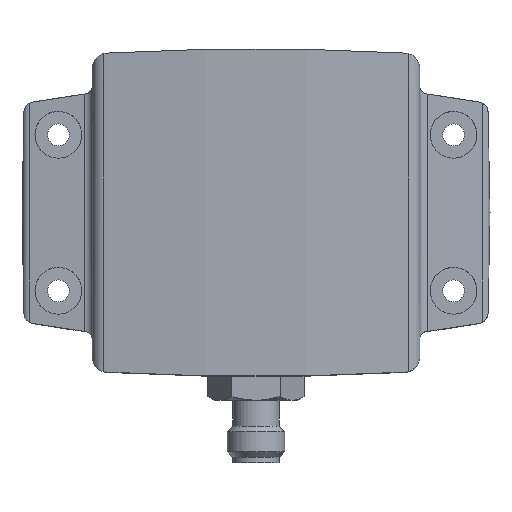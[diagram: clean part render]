
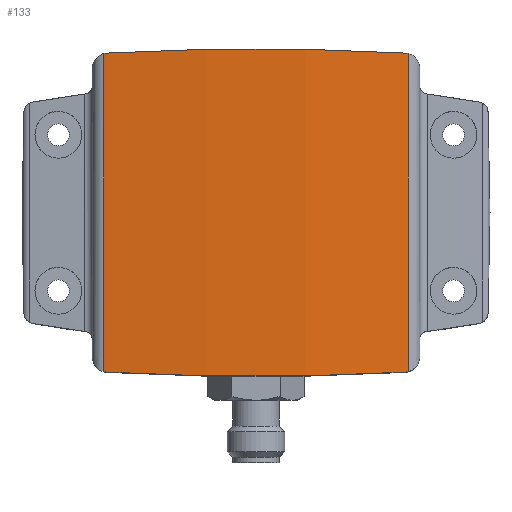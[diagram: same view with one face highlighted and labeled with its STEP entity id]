
A CAD part, top view. The second image highlights one B-rep face of the part: STEP entity #133.
In plain terms, the highlighted cylindrical face has radius 250.001 mm (diameter 500.002 mm), a partial arc.
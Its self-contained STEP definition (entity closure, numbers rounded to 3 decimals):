
#133 = ADVANCED_FACE( '', ( #289 ), #290, .T. );
#289 = FACE_OUTER_BOUND( '', #481, .T. );
#290 = CYLINDRICAL_SURFACE( '', #482, 250.001 );
#481 = EDGE_LOOP( '', ( #973, #974, #975, #976, #977, #978, #979, #980 ) );
#482 = AXIS2_PLACEMENT_3D( '', #981, #982, #983 );
#973 = ORIENTED_EDGE( '', *, *, #1404, .F. );
#974 = ORIENTED_EDGE( '', *, *, #1403, .F. );
#975 = ORIENTED_EDGE( '', *, *, #1405, .F. );
#976 = ORIENTED_EDGE( '', *, *, #1406, .F. );
#977 = ORIENTED_EDGE( '', *, *, #1407, .F. );
#978 = ORIENTED_EDGE( '', *, *, #1408, .T. );
#979 = ORIENTED_EDGE( '', *, *, #1409, .F. );
#980 = ORIENTED_EDGE( '', *, *, #1410, .F. );
#981 = CARTESIAN_POINT( '', ( 0., 35., -219.501 ) );
#982 = DIRECTION( '', ( 0., 1., 0. ) );
#983 = DIRECTION( '', ( -0.117, 0., 0.993 ) );
#1403 = EDGE_CURVE( '', #1722, #1718, #1724, .T. );
#1404 = EDGE_CURVE( '', #1718, #1725, #1726, .T. );
#1405 = EDGE_CURVE( '', #1727, #1722, #1728, .T. );
#1406 = EDGE_CURVE( '', #1729, #1727, #1730, .T. );
#1407 = EDGE_CURVE( '', #1731, #1729, #1732, .T. );
#1408 = EDGE_CURVE( '', #1731, #1733, #1734, .T. );
#1409 = EDGE_CURVE( '', #1735, #1733, #1736, .T. );
#1410 = EDGE_CURVE( '', #1725, #1735, #1737, .T. );
#1718 = VERTEX_POINT( '', #2642 );
#1722 = VERTEX_POINT( '', #2664 );
#1724 = LINE( '', #2683, #2684 );
#1725 = VERTEX_POINT( '', #2685 );
#1726 = B_SPLINE_CURVE_WITH_KNOTS( '', 3, ( #2686, #2687, #2688, #2689, #2690, #2691 ), .UNSPECIFIED., .F., .F., ( 4, 2, 4 ), ( 12.826, 13.038, 13.435 ), .UNSPECIFIED. );
#1727 = VERTEX_POINT( '', #2692 );
#1728 = B_SPLINE_CURVE_WITH_KNOTS( '', 3, ( #2693, #2694, #2695, #2696, #2697, #2698 ), .UNSPECIFIED., .F., .F., ( 4, 2, 4 ), ( 4.705, 5.103, 5.315 ), .UNSPECIFIED. );
#1729 = VERTEX_POINT( '', #2699 );
#1730 = B_SPLINE_CURVE_WITH_KNOTS( '', 3, ( #2700, #2701, #2702, #2703, #2704, #2705, #2706, #2707, #2708, #2709, #2710, #2711, #2712, #2713 ), .UNSPECIFIED., .F., .F., ( 4, 2, 2, 2, 2, 2, 4 ), ( 13.78, 20.224, 30.336, 40.448, 50.56, 60.672, 67.115 ), .UNSPECIFIED. );
#1731 = VERTEX_POINT( '', #2714 );
#1732 = B_SPLINE_CURVE_WITH_KNOTS( '', 3, ( #2715, #2716, #2717, #2718, #2719, #2720 ), .UNSPECIFIED., .F., .F., ( 4, 2, 4 ), ( 3.756, 3.967, 4.365 ), .UNSPECIFIED. );
#1733 = VERTEX_POINT( '', #2721 );
#1734 = LINE( '', #2722, #2723 );
#1735 = VERTEX_POINT( '', #2724 );
#1736 = B_SPLINE_CURVE_WITH_KNOTS( '', 3, ( #2725, #2726, #2727, #2728, #2729, #2730 ), .UNSPECIFIED., .F., .F., ( 4, 2, 4 ), ( 13.776, 14.173, 14.385 ), .UNSPECIFIED. );
#1737 = B_SPLINE_CURVE_WITH_KNOTS( '', 3, ( #2731, #2732, #2733, #2734, #2735, #2736, #2737, #2738, #2739, #2740, #2741, #2742, #2743, #2744 ), .UNSPECIFIED., .F., .F., ( 4, 2, 2, 2, 2, 2, 4 ), ( 13.78, 20.224, 30.336, 40.448, 50.56, 60.672, 67.115 ), .UNSPECIFIED. );
#2642 = CARTESIAN_POINT( '', ( 29.293, -30.575, 28.778 ) );
#2664 = CARTESIAN_POINT( '', ( 29.293, 30.575, 28.778 ) );
#2683 = CARTESIAN_POINT( '', ( 29.293, 35., 28.778 ) );
#2684 = VECTOR( '', #3281, 1. );
#2685 = CARTESIAN_POINT( '', ( 28.672, -30.677, 28.85 ) );
#2686 = CARTESIAN_POINT( '', ( 29.293, -30.575, 28.778 ) );
#2687 = CARTESIAN_POINT( '', ( 29.221, -30.595, 28.786 ) );
#2688 = CARTESIAN_POINT( '', ( 29.15, -30.612, 28.795 ) );
#2689 = CARTESIAN_POINT( '', ( 28.942, -30.653, 28.819 ) );
#2690 = CARTESIAN_POINT( '', ( 28.806, -30.67, 28.835 ) );
#2691 = CARTESIAN_POINT( '', ( 28.672, -30.677, 28.85 ) );
#2692 = CARTESIAN_POINT( '', ( 28.672, 30.677, 28.85 ) );
#2693 = CARTESIAN_POINT( '', ( 28.672, 30.677, 28.85 ) );
#2694 = CARTESIAN_POINT( '', ( 28.806, 30.67, 28.835 ) );
#2695 = CARTESIAN_POINT( '', ( 28.942, 30.653, 28.819 ) );
#2696 = CARTESIAN_POINT( '', ( 29.15, 30.612, 28.795 ) );
#2697 = CARTESIAN_POINT( '', ( 29.221, 30.595, 28.786 ) );
#2698 = CARTESIAN_POINT( '', ( 29.293, 30.575, 28.778 ) );
#2699 = CARTESIAN_POINT( '', ( -28.672, 30.677, 28.85 ) );
#2700 = CARTESIAN_POINT( '', ( -28.672, 30.677, 28.85 ) );
#2701 = CARTESIAN_POINT( '', ( -26.431, 30.806, 29.109 ) );
#2702 = CARTESIAN_POINT( '', ( -24.165, 30.921, 29.34 ) );
#2703 = CARTESIAN_POINT( '', ( -18.295, 31.178, 29.856 ) );
#2704 = CARTESIAN_POINT( '', ( -14.664, 31.298, 30.096 ) );
#2705 = CARTESIAN_POINT( '', ( -7.355, 31.459, 30.419 ) );
#2706 = CARTESIAN_POINT( '', ( -3.677, 31.5, 30.5 ) );
#2707 = CARTESIAN_POINT( '', ( 3.677, 31.5, 30.5 ) );
#2708 = CARTESIAN_POINT( '', ( 7.355, 31.459, 30.419 ) );
#2709 = CARTESIAN_POINT( '', ( 14.664, 31.298, 30.096 ) );
#2710 = CARTESIAN_POINT( '', ( 18.295, 31.178, 29.856 ) );
#2711 = CARTESIAN_POINT( '', ( 24.165, 30.921, 29.34 ) );
#2712 = CARTESIAN_POINT( '', ( 26.431, 30.806, 29.109 ) );
#2713 = CARTESIAN_POINT( '', ( 28.672, 30.677, 28.85 ) );
#2714 = CARTESIAN_POINT( '', ( -29.293, 30.575, 28.778 ) );
#2715 = CARTESIAN_POINT( '', ( -29.293, 30.575, 28.778 ) );
#2716 = CARTESIAN_POINT( '', ( -29.221, 30.595, 28.786 ) );
#2717 = CARTESIAN_POINT( '', ( -29.15, 30.612, 28.795 ) );
#2718 = CARTESIAN_POINT( '', ( -28.942, 30.653, 28.819 ) );
#2719 = CARTESIAN_POINT( '', ( -28.806, 30.67, 28.835 ) );
#2720 = CARTESIAN_POINT( '', ( -28.672, 30.677, 28.85 ) );
#2721 = CARTESIAN_POINT( '', ( -29.293, -30.575, 28.778 ) );
#2722 = CARTESIAN_POINT( '', ( -29.293, 35., 28.778 ) );
#2723 = VECTOR( '', #3282, 1. );
#2724 = CARTESIAN_POINT( '', ( -28.672, -30.677, 28.85 ) );
#2725 = CARTESIAN_POINT( '', ( -28.672, -30.677, 28.85 ) );
#2726 = CARTESIAN_POINT( '', ( -28.806, -30.67, 28.835 ) );
#2727 = CARTESIAN_POINT( '', ( -28.942, -30.653, 28.819 ) );
#2728 = CARTESIAN_POINT( '', ( -29.15, -30.612, 28.795 ) );
#2729 = CARTESIAN_POINT( '', ( -29.221, -30.595, 28.786 ) );
#2730 = CARTESIAN_POINT( '', ( -29.293, -30.575, 28.778 ) );
#2731 = CARTESIAN_POINT( '', ( 28.672, -30.677, 28.85 ) );
#2732 = CARTESIAN_POINT( '', ( 26.431, -30.806, 29.109 ) );
#2733 = CARTESIAN_POINT( '', ( 24.165, -30.921, 29.34 ) );
#2734 = CARTESIAN_POINT( '', ( 18.295, -31.178, 29.856 ) );
#2735 = CARTESIAN_POINT( '', ( 14.664, -31.298, 30.096 ) );
#2736 = CARTESIAN_POINT( '', ( 7.355, -31.459, 30.419 ) );
#2737 = CARTESIAN_POINT( '', ( 3.677, -31.5, 30.5 ) );
#2738 = CARTESIAN_POINT( '', ( -3.677, -31.5, 30.5 ) );
#2739 = CARTESIAN_POINT( '', ( -7.355, -31.459, 30.419 ) );
#2740 = CARTESIAN_POINT( '', ( -14.664, -31.298, 30.096 ) );
#2741 = CARTESIAN_POINT( '', ( -18.295, -31.178, 29.856 ) );
#2742 = CARTESIAN_POINT( '', ( -24.165, -30.921, 29.34 ) );
#2743 = CARTESIAN_POINT( '', ( -26.431, -30.806, 29.109 ) );
#2744 = CARTESIAN_POINT( '', ( -28.672, -30.677, 28.85 ) );
#3281 = DIRECTION( '', ( 0., -1., 0. ) );
#3282 = DIRECTION( '', ( 0., -1., 0. ) );
